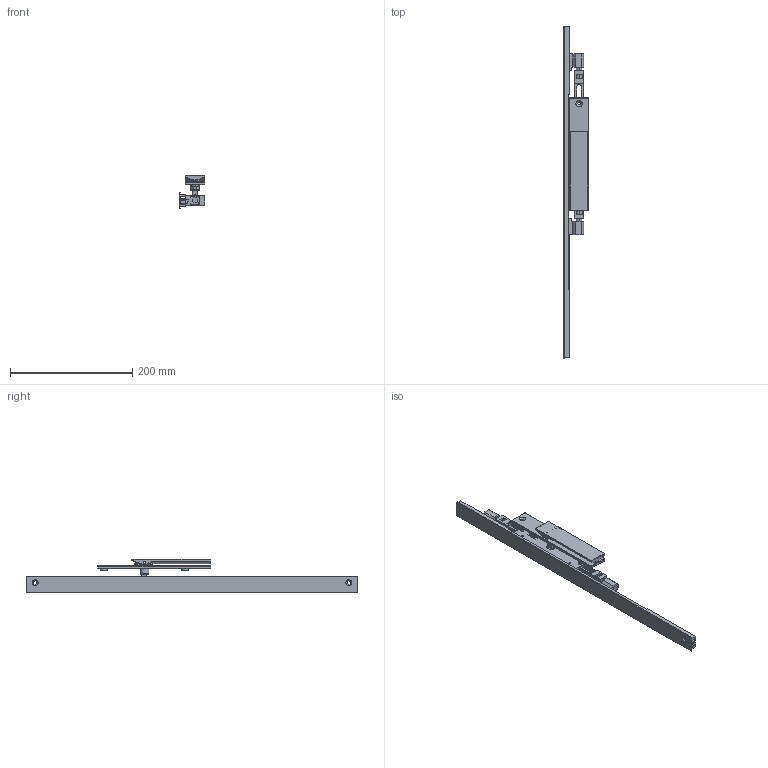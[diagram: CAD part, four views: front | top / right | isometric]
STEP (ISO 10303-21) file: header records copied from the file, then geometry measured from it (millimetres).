
FILE_DESCRIPTION (( 'STEP AP214' ), '1' );
FILE_NAME ('TPL-W-517-L 19July2024.STEP', '2024-12-05T00:07:55', ( '' ), ( '' ), 'SwSTEP 2.0', 'SolidWorks 2023', '' );
FILE_SCHEMA (( 'AUTOMOTIVE_DESIGN' ));
Length unit declared in the file: millimetre
Products named in the file (16): Bottom twinpoint transmission rod wood system^TPL-W-017 19July2024_Standard Range 2891.7mm; Copy of LKC-547 Spindle - simplified^Copy of TPGen2 handle non-keyed - simplified_TPL-W-017 19July2024_G - 24mm; TPL-W-517-L 19July2024; COV-112-A Cover A suit TPLGen2 standard range^TPL-W-017 19July2024_2870mm; Copy of Adapter DnF - simplfied^TPL-W-017 19July2024_26mm backset; Copy of TPLGen2 lock body non-keyed assembly^TPL-W-017 19July2024_Bolts extended; Copy of TPLGen2 lock body non-keyed^Copy of TPLGen2 lock body non-keyed assembly_TPL-W-017 19July2024; Copy of Handle sub-assembly - simplified^Copy of TPGen2 handle non-keyed - simplified_TPL-W-017 19July2024; Copy of TPGen2 handle non-keyed - simplified^TPL-W-017 19July2024_Vertical; COV-112-B Cover B suit TPLGen2 standard range^TPL-W-017 19July2024_2870mm; Bolt.step; Copy of LKC-531-A Rod TPLGen2 machined bolt end^TPL-W-017 19July2024_LKC-531-A-M003; Copy of Escutcheon plate unkeyed 185mm - simplified^Copy of TPGen2 handle non-keyed - simplified_TPL-W-017 19July2024; Copy of COV-112-C Cover C TPLGen2 Lock body^TPL-W-017 19July2024; Copy of TPLGen2 push rod - simplified^Copy of TPLGen2 lock body non-keyed assembly_TPL-W-017 19July2024_Female thread M10; Copy of Adapter CnE - simplfied^TPL-W-017 19July2024_26mm backset
Assembly tree (13 placements, depth 3):
  TPL-W-517-L 19July2024
    Copy of TPLGen2 lock body non-keyed assembly^TPL-W-017 19July2024_Bolts extended
      Copy of TPLGen2 lock body non-keyed^Copy of TPLGen2 lock body non-keyed assembly_TPL-W-017 19July2024
      Copy of TPLGen2 push rod - simplified^Copy of TPLGen2 lock body non-keyed assembly_TPL-W-017 19July2024_Female thread M10  x2
    Copy of TPGen2 handle non-keyed - simplified^TPL-W-017 19July2024_Vertical
      Copy of Escutcheon plate unkeyed 185mm - simplified^Copy of TPGen2 handle non-keyed - simplified_TPL-W-017 19July2024
      Copy of Handle sub-assembly - simplified^Copy of TPGen2 handle non-keyed - simplified_TPL-W-017 19July2024
      Copy of LKC-547 Spindle - simplified^Copy of TPGen2 handle non-keyed - simplified_TPL-W-017 19July2024_G - 24mm
    Copy of COV-112-C Cover C TPLGen2 Lock body^TPL-W-017 19July2024
    Bottom twinpoint transmission rod wood system^TPL-W-017 19July2024_Standard Range 2891.7mm
    Copy of LKC-531-A Rod TPLGen2 machined bolt end^TPL-W-017 19July2024_LKC-531-A-M003
    Copy of Adapter DnF - simplfied^TPL-W-017 19July2024_26mm backset
    Copy of Adapter CnE - simplfied^TPL-W-017 19July2024_26mm backset
  COV-112-A Cover A suit TPLGen2 standard range^TPL-W-017 19July2024_2870mm
  COV-112-B Cover B suit TPLGen2 standard range^TPL-W-017 19July2024_2870mm
  Bolt.step
Bounding box: 42 x 544 x 54.62 mm (x, y, z)
Volume: 208695 mm3; surface area: 118604 mm2
Topology: 12 solids, 12 shells, 643 faces, 1638 edges, 1036 vertices
Faces by surface type: plane 303, cylinder 199, bspline 77, torus 32, cone 20, sphere 12
Entity records: 19387 total; most frequent: CARTESIAN_POINT 4495, ORIENTED_EDGE 3060, DIRECTION 2907, EDGE_CURVE 1530, AXIS2_PLACEMENT_3D 1000, VERTEX_POINT 976, LINE 907, VECTOR 907
